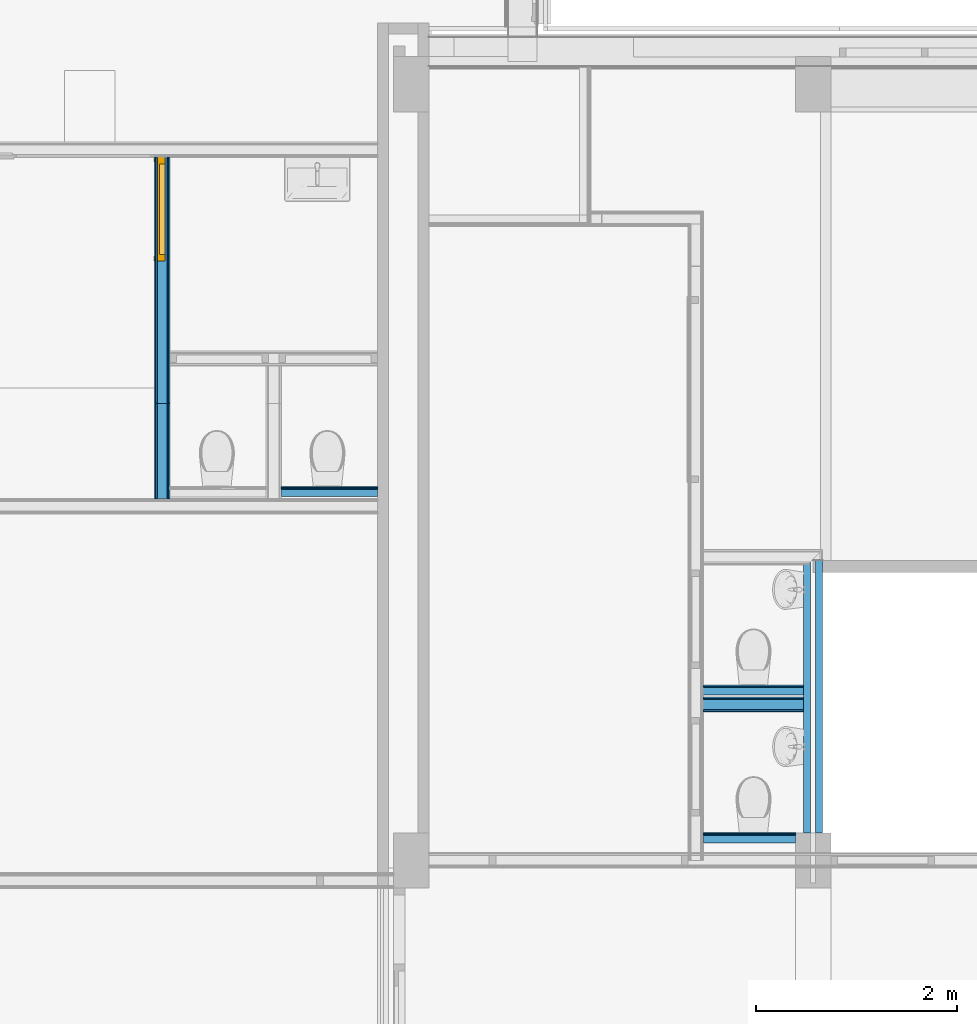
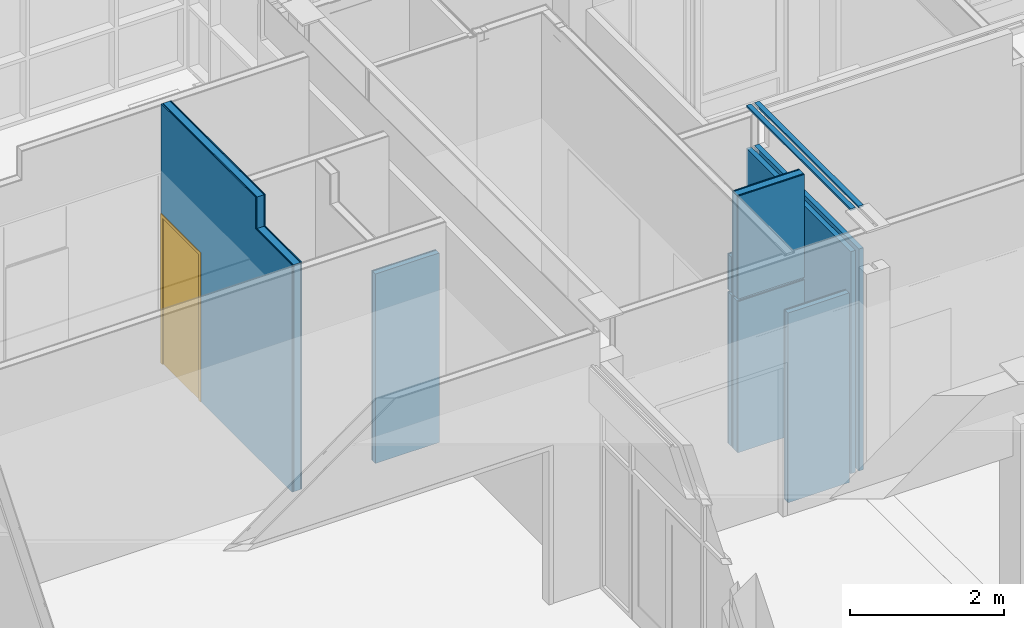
# One storey, part 49 of 109: 21 building element parts, 1 door, 1 opening, 6 elements without a shape of their own.
"""IFC2X3 building model written with IfcOpenShell, lengths in millimetres."""

from ifc_helpers import new_model, entity, si_unit, converted_unit, derived_unit, money_unit, direction, frame, origin_with_axes, place, context, subcontext, project, spatial, faceted_brep, material, type_object, element, fill, aggregate, save


model = new_model("IFC2X3")

# Units and contexts
model_context = context("Model", 3, precision=0.01, world=origin_with_axes(), true_north=direction((0.0, 1.0)))
body_context = subcontext(model_context, "Body", "Model", "MODEL_VIEW")
ifc_project = project(units=[si_unit("LENGTHUNIT", "METRE", prefix="MILLI"), si_unit("AREAUNIT", "SQUARE_METRE"), si_unit("VOLUMEUNIT", "CUBIC_METRE"), converted_unit("PLANEANGLEUNIT", "DEGREE", entity("IfcPlaneAngleMeasure", 0.0174532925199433), si_unit("PLANEANGLEUNIT", "RADIAN"), dimensions=[0, 0, 0, 0, 0, 0, 0]), money_unit("EUR"), converted_unit("TIMEUNIT", "Year", entity("IfcTimeMeasure", 31557600.0), si_unit("TIMEUNIT", "SECOND"), dimensions=[0, 0, 1, 0, 0, 0, 0]), si_unit("MASSUNIT", "GRAM", prefix="KILO"), si_unit("THERMODYNAMICTEMPERATUREUNIT", "DEGREE_CELSIUS"), si_unit("LUMINOUSINTENSITYUNIT", "LUMEN"), si_unit("ENERGYUNIT", "JOULE", prefix="MEGA"), derived_unit("THERMALCONDUCTANCEUNIT", [(si_unit("POWERUNIT", "WATT"), 1), (si_unit("LENGTHUNIT", "METRE"), -1), (si_unit("THERMODYNAMICTEMPERATUREUNIT", "KELVIN"), -1)]), derived_unit("SPECIFICHEATCAPACITYUNIT", [(si_unit("ENERGYUNIT", "JOULE"), 1), (si_unit("MASSUNIT", "GRAM", prefix="KILO"), -1), (si_unit("THERMODYNAMICTEMPERATUREUNIT", "KELVIN"), -1)]), derived_unit("MASSDENSITYUNIT", [(si_unit("MASSUNIT", "GRAM", prefix="KILO"), 1), (si_unit("VOLUMEUNIT", "CUBIC_METRE"), -1)])], contexts=[model_context])

# Site, building, storey
site_placement = place(None, origin_with_axes())
site = spatial("IfcSite", under=ifc_project, at=site_placement, Name="<site naam>", CompositionType="ELEMENT")
building_placement = place(site_placement, origin_with_axes())
building = spatial("IfcBuilding", under=site, at=building_placement, Name="<Naam gebouw>", CompositionType="ELEMENT")
storey_placement = place(building_placement, origin_with_axes())
storey = spatial("IfcBuildingStorey", under=building, at=storey_placement, Name="00 Begane grond", CompositionType="ELEMENT", Elevation=0.0)

# Door
door_style = type_object("IfcDoorStyle", Name="D1 27", ConstructionType="NOTDEFINED", OperationType="SINGLE_SWING_RIGHT", ParameterTakesPrecedence=False, Sizeable=False)
wall_2_placement = place(storey_placement, frame((9596.980742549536, 15599.99998636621, 0.0), z_axis=(0.0, 0.0, 1.0), x_axis=(0.0, 1.0, 0.0)))
opening_placement = place(wall_2_placement, frame((2883.000013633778, 0.0, 0.0), z_axis=(0.0, 0.0, 1.0), x_axis=(1.0, 0.0, 0.0)))
door_placement = place(opening_placement, frame((-449.9999999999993, 0.0, 0.0), z_axis=(0.0, 0.0, 1.0), x_axis=(1.0, 0.0, 0.0)))
door = element("IfcDoor", 1, at=door_placement, inside=storey, type_object=door_style, Name="22_BI-A-01 sp_305", ObjectType="DOOR", OverallHeight=2367.0, OverallWidth=1034.0, context=body_context, shape_type="Brep", body=[
    faceted_brep([(916.9999999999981, 120.000000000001, 0.0), (916.9999999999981, 120.000000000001, 11.99999999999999), (899.9999999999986, 120.000000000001, 11.99999999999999), (899.9999999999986, 120.000000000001, 0.0), (-16.99999999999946, 120.000000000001, 0.0), (-16.99999999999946, 120.000000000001, 11.99999999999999), (0.0, 120.000000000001, 11.99999999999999), (0.0, 45.99999999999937, 11.99999999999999), (899.9999999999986, 45.99999999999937, 11.99999999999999), (899.9999999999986, 45.99999999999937, 0.0), (0.0, 45.99999999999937, 0.0), (0.0, 120.000000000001, 0.0)], [[[0, 1, 2, 3]], [[4, 5, 1, 0]], [[1, 5, 6, 7, 8, 2]], [[3, 2, 8, 9]], [[0, 3, 9, 10, 11, 4]], [[11, 6, 5, 4]], [[10, 7, 6, 11]], [[9, 8, 7, 10]]]),
    faceted_brep([(0.0, 105.0000000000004, 0.0), (0.0, 105.0000000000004, 2300.0), (0.0, 46.00000000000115, 2300.0), (0.0, 45.99999999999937, 0.0), (-16.99999999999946, 105.0000000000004, 2300.0), (-16.99999999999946, 105.0000000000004, 0.0), (-16.99999999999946, 160.0000000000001, 2300.0), (-67.00000000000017, 160.0000000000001, 2300.0), (-67.00000000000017, 46.00000000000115, 2300.0), (-67.00000000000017, 45.99999999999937, 0.0), (-67.00000000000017, 160.0000000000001, 0.0), (-16.99999999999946, 160.0000000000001, 0.0)], [[[0, 1, 2, 3]], [[4, 1, 0, 5]], [[4, 6, 7, 8, 2, 1]], [[3, 2, 8, 9]], [[5, 0, 3, 9, 10, 11]], [[6, 4, 5, 11]], [[6, 11, 10, 7]], [[10, 9, 8, 7]]]),
    faceted_brep([(916.9999999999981, 105.0000000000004, 2300.0), (899.9999999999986, 105.0000000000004, 2300.0), (899.9999999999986, 45.99999999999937, 2300.0), (966.9999999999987, 45.99999999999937, 2300.0), (966.9999999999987, 160.0000000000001, 2300.0), (916.9999999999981, 160.0000000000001, 2300.0), (916.9999999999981, 105.0000000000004, 0.0), (899.9999999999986, 105.0000000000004, 0.0), (899.9999999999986, 45.99999999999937, 0.0), (966.9999999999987, 45.99999999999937, 0.0), (966.9999999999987, 160.0000000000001, 0.0), (916.9999999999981, 160.0000000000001, 0.0)], [[[0, 1, 2, 3, 4, 5]], [[1, 0, 6, 7]], [[1, 7, 8, 2]], [[3, 2, 8, 9]], [[4, 3, 9, 10]], [[11, 5, 4, 10]], [[0, 5, 11, 6]], [[6, 11, 10, 9, 8, 7]]]),
    faceted_brep([(-16.99999999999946, 160.0000000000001, 2317.0), (-16.99999999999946, 160.0000000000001, 2300.0), (-67.00000000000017, 160.0000000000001, 2300.0), (-67.00000000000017, 160.0000000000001, 2367.0), (966.9999999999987, 160.0000000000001, 2367.0), (966.9999999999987, 160.0000000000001, 2300.0), (916.9999999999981, 160.0000000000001, 2300.0), (916.9999999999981, 160.0000000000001, 2317.0), (-16.99999999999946, 105.0000000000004, 2317.0), (-16.99999999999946, 105.0000000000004, 2300.0), (0.0, 105.0000000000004, 2300.0), (0.0, 46.00000000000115, 2300.0), (-67.00000000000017, 46.00000000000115, 2300.0), (-67.00000000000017, 46.00000000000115, 2367.0), (966.9999999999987, 45.99999999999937, 2367.0), (966.9999999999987, 45.99999999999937, 2300.0), (916.9999999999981, 105.0000000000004, 2300.0), (899.9999999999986, 45.99999999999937, 2300.0), (899.9999999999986, 105.0000000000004, 2300.0), (916.9999999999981, 105.0000000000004, 2317.0)], [[[0, 1, 2, 3, 4, 5, 6, 7]], [[1, 0, 8, 9]], [[9, 10, 11, 12, 2, 1]], [[2, 12, 13, 3]], [[3, 13, 14, 4]], [[4, 14, 15, 5]], [[16, 6, 5, 15, 17, 18]], [[7, 6, 16, 19]], [[0, 7, 19, 8]], [[16, 18, 10, 9, 8, 19]], [[10, 18, 17, 11]], [[17, 15, 14, 13, 12, 11]]]),
    faceted_brep([(916.9999999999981, 144.9999999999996, 0.0), (916.9999999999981, 105.0000000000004, 0.0), (-16.99999999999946, 105.0000000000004, 0.0), (-16.99999999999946, 144.9999999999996, 0.0), (916.9999999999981, 144.9999999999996, 2317.0), (916.9999999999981, 105.0000000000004, 2317.0), (-16.99999999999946, 105.0000000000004, 2317.0), (-16.99999999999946, 144.9999999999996, 2317.0)], [[[0, 1, 2, 3]], [[4, 5, 1, 0]], [[1, 5, 6, 2]], [[3, 2, 6, 7]], [[0, 3, 7, 4]], [[7, 6, 5, 4]]]),
])

# Wall, building element parts
wall_type_1 = type_object("IfcWallType", Name="metalstud-lucht-metalstud 190 190", PredefinedType="NOTDEFINED")
wall_1_placement = place(storey_placement, frame((16000.00000000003, 14985.53550734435, 50.0), z_axis=(0.0, 0.0, 1.0), x_axis=(0.0, -1.0, 0.0)))
wall_1 = element("IfcWall", 2, at=wall_1_placement, inside=storey, type_object=wall_type_1, Name="22_Binnenwand_metalstud-lucht-metalstud")
ifc_material_1 = material(Name="metal_stud")
building_element_part_1_placement = place(wall_1_placement, origin_with_axes())
building_element_part_1 = element("IfcBuildingElementPart", 3, at=building_element_part_1_placement, material=ifc_material_1, Name="metal_stud", context=body_context, shape_type="Brep", body=[
    faceted_brep([(2710.535507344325, -94.99999999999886, 3520.0), (2710.535507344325, -25.00000000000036, 3520.0), (0.0, -25.00000000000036, 3520.0), (0.0, -94.99999999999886, 3520.0), (2710.535507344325, -25.00000000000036, 0.0), (2710.535507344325, -94.99999999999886, 0.0), (0.0, -25.00000000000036, 0.0), (0.0, -94.99999999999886, 0.0)], [[[0, 1, 2, 3]], [[4, 1, 0, 5]], [[1, 4, 6, 2]], [[7, 3, 2, 6]], [[5, 0, 3, 7]], [[4, 5, 7, 6]]]),
    faceted_brep([(2710.535507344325, -94.99999999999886, 4200.0), (2710.535507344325, -25.00000000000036, 4200.0), (0.0, -25.00000000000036, 4200.0), (0.0, -94.99999999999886, 4200.0), (2710.535507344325, -25.00000000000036, 4170.0), (2710.535507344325, -94.99999999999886, 4170.0), (0.0, -25.00000000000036, 4170.0), (0.0, -94.99999999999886, 4170.0)], [[[0, 1, 2, 3]], [[4, 1, 0, 5]], [[1, 4, 6, 2]], [[3, 2, 6, 7]], [[5, 0, 3, 7]], [[4, 5, 7, 6]]]),
])
building_element_part_2_placement = place(wall_1_placement, origin_with_axes())
building_element_part_2 = element("IfcBuildingElementPart", 4, at=building_element_part_2_placement, material=ifc_material_1, Name="metal_stud", context=body_context, shape_type="Brep", body=[
    faceted_brep([(2710.535507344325, 24.99999999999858, 3520.0), (2710.535507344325, 94.99999999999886, 3520.0), (0.0, 94.99999999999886, 3520.0), (0.0, 24.99999999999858, 3520.0), (2710.535507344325, 94.99999999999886, 0.0), (2710.535507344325, 24.99999999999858, 0.0), (0.0, 94.99999999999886, 0.0), (0.0, 24.99999999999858, 0.0)], [[[0, 1, 2, 3]], [[4, 1, 0, 5]], [[1, 4, 6, 2]], [[7, 3, 2, 6]], [[5, 0, 3, 7]], [[4, 5, 7, 6]]]),
    faceted_brep([(2710.535507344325, 24.99999999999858, 4200.0), (2710.535507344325, 94.99999999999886, 4200.0), (0.0, 94.99999999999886, 4200.0), (0.0, 24.99999999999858, 4200.0), (2710.535507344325, 94.99999999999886, 4170.0), (2710.535507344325, 24.99999999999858, 4170.0), (0.0, 94.99999999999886, 4170.0), (0.0, 24.99999999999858, 4170.0)], [[[0, 1, 2, 3]], [[4, 1, 0, 5]], [[1, 4, 6, 2]], [[3, 2, 6, 7]], [[5, 0, 3, 7]], [[4, 5, 7, 6]]]),
])
aggregate(wall_1, [building_element_part_1, building_element_part_2])

# Wall, opening
wall_type_2 = type_object("IfcWallType", Name="MS-01 GF 150 ECO DGS/2.100.2.A 150", PredefinedType="NOTDEFINED")
wall_2 = element("IfcWall", 5, at=wall_2_placement, inside=storey, type_object=wall_type_2, Name="22_Binnenwand_MS-01")
opening = element("IfcOpeningElement", 6, at=opening_placement, cuts=wall_2, Name="22_BI-A-01 sp_305", context=body_context, shape_type="Brep", body=[
    faceted_brep([(-516.9999999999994, -0.9999999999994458, 2367.0), (-516.9999999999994, -0.9999999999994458, 0.0), (516.9999999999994, -0.9999999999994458, 0.0), (516.9999999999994, -0.9999999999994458, 2367.0), (-516.9999999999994, 150.9999999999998, 2367.0), (-516.9999999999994, 150.9999999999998, 0.0), (516.9999999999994, 150.9999999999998, 0.0), (516.9999999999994, 150.9999999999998, 2367.0)], [[[0, 1, 2, 3]], [[4, 5, 1, 0]], [[5, 6, 2, 1]], [[6, 7, 3, 2]], [[7, 4, 0, 3]], [[6, 5, 4, 7]]]),
])

fill(opening, door)

# Building element part
ifc_material_2 = material(Name="gipsplaat")
building_element_part_3_placement = place(wall_2_placement, origin_with_axes())
building_element_part_3 = element("IfcBuildingElementPart", 7, at=building_element_part_3_placement, material=ifc_material_2, Name="gipsplaat", context=body_context, shape_type="Brep", body=[
    faceted_brep([(950.0000136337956, 150.0000000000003, 4100.000003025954), (950.0000136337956, 137.5000000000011, 4100.000003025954), (3400.000013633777, 137.5000000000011, 4100.000002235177), (3400.000013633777, 150.0000000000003, 4100.000002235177), (950.0000136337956, 137.4999999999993, 3600.0), (950.0000136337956, 150.0000000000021, 3600.0), (0.0, 137.5000000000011, 3600.0), (0.0, 137.4999999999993, 0.0), (3400.000013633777, 137.4999999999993, 0.0), (3400.000013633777, 137.4999999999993, 4070.0), (3400.000013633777, 150.0000000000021, 4070.0), (3400.000013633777, 150.0000000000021, 0.0), (0.0, 150.0000000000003, 0.0), (0.0, 150.0000000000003, 3600.0)], [[[0, 1, 2, 3]], [[4, 1, 0, 5]], [[4, 6, 7, 8, 9, 2, 1]], [[2, 9, 10, 3]], [[5, 0, 3, 10, 11, 12, 13]], [[6, 4, 5, 13]], [[6, 13, 12, 7]], [[12, 11, 8, 7]], [[11, 10, 9, 8]]]),
])

building_element_part_4_placement = place(wall_2_placement, origin_with_axes())
building_element_part_4 = element("IfcBuildingElementPart", 8, at=building_element_part_4_placement, material=ifc_material_2, Name="gipsplaat", context=body_context, shape_type="Brep", body=[
    faceted_brep([(950.0000136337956, 137.5000000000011, 4100.000003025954), (950.0000136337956, 125.0, 4100.000003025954), (3400.000013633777, 125.0, 4100.000002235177), (3400.000013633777, 137.5000000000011, 4100.000002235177), (950.0000136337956, 125.0, 3600.0), (950.0000136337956, 137.5000000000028, 3600.0), (0.0, 125.0, 3600.0), (0.0, 125.0, 0.0), (3400.000013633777, 125.0, 0.0), (3400.000013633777, 125.0, 4070.0), (3400.000013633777, 137.5000000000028, 4070.0), (3400.000013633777, 137.4999999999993, 0.0), (0.0, 137.4999999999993, 0.0), (0.0, 137.5000000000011, 3600.0)], [[[0, 1, 2, 3]], [[4, 1, 0, 5]], [[4, 6, 7, 8, 9, 2, 1]], [[2, 9, 10, 3]], [[5, 0, 3, 10, 11, 12, 13]], [[6, 4, 5, 13]], [[6, 13, 12, 7]], [[12, 11, 8, 7]], [[11, 10, 9, 8]]]),
])

ifc_material_3 = material(Name="isolatie_steenwol LSW")
building_element_part_5_placement = place(wall_2_placement, origin_with_axes())
building_element_part_5 = element("IfcBuildingElementPart", 9, at=building_element_part_5_placement, material=ifc_material_3, Name="isolatie_steenwol LSW", context=body_context, shape_type="Brep", body=[
    faceted_brep([(950.0000136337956, 125.0, 4100.000003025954), (950.0000136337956, 25.00000000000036, 4100.000003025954), (3400.000013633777, 25.00000000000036, 4100.000002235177), (3400.000013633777, 125.0, 4100.000002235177), (950.0000136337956, 25.00000000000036, 3600.0), (950.0000136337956, 125.0, 3600.0), (0.0, 25.00000000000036, 3600.0), (0.0, 25.00000000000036, 0.0), (3400.000013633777, 25.00000000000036, 0.0), (3400.000013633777, 25.00000000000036, 4070.0), (3400.000013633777, 125.0, 4070.0), (3400.000013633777, 125.0, 0.0), (0.0, 125.0, 0.0), (0.0, 125.0, 3600.0)], [[[0, 1, 2, 3]], [[4, 1, 0, 5]], [[4, 6, 7, 8, 9, 2, 1]], [[2, 9, 10, 3]], [[5, 0, 3, 10, 11, 12, 13]], [[6, 4, 5, 13]], [[6, 13, 12, 7]], [[12, 11, 8, 7]], [[11, 10, 9, 8]]]),
])

building_element_part_6_placement = place(wall_2_placement, origin_with_axes())
building_element_part_6 = element("IfcBuildingElementPart", 10, at=building_element_part_6_placement, material=ifc_material_2, Name="gipsplaat", context=body_context, shape_type="Brep", body=[
    faceted_brep([(950.0000136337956, 12.50000000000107, 4100.000003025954), (950.0000136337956, 0.0, 4100.000003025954), (3400.000013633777, 0.0, 4100.000002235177), (3400.000013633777, 12.50000000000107, 4100.000002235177), (950.0000136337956, 0.0, 3600.0), (950.0000136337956, 12.50000000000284, 3600.0), (0.0, 0.0, 3600.0), (0.0, 0.0, 0.0), (3400.000013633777, 0.0, 0.0), (3400.000013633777, 0.0, 4070.0), (3400.000013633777, 12.50000000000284, 4070.0), (3400.000013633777, 12.49999999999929, 0.0), (0.0, 12.49999999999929, 0.0), (0.0, 12.50000000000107, 3600.0)], [[[0, 1, 2, 3]], [[4, 1, 0, 5]], [[4, 6, 7, 8, 9, 2, 1]], [[2, 9, 10, 3]], [[5, 0, 3, 10, 11, 12, 13]], [[6, 4, 5, 13]], [[6, 13, 12, 7]], [[12, 11, 8, 7]], [[11, 10, 9, 8]]]),
])

building_element_part_7_placement = place(wall_2_placement, origin_with_axes())
building_element_part_7 = element("IfcBuildingElementPart", 11, at=building_element_part_7_placement, material=ifc_material_2, Name="gipsplaat", context=body_context, shape_type="Brep", body=[
    faceted_brep([(950.0000136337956, 25.00000000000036, 4100.000003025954), (950.0000136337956, 12.50000000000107, 4100.000003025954), (3400.000013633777, 12.50000000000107, 4100.000002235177), (3400.000013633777, 25.00000000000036, 4100.000002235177), (950.0000136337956, 12.49999999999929, 3600.0), (950.0000136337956, 25.00000000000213, 3600.0), (0.0, 12.50000000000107, 3600.0), (0.0, 12.49999999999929, 0.0), (3400.000013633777, 12.49999999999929, 0.0), (3400.000013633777, 12.49999999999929, 4070.0), (3400.000013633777, 25.00000000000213, 4070.0), (3400.000013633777, 25.00000000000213, 0.0), (0.0, 25.00000000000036, 0.0), (0.0, 25.00000000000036, 3600.0)], [[[0, 1, 2, 3]], [[4, 1, 0, 5]], [[4, 6, 7, 8, 9, 2, 1]], [[2, 9, 10, 3]], [[5, 0, 3, 10, 11, 12, 13]], [[6, 4, 5, 13]], [[6, 13, 12, 7]], [[12, 11, 8, 7]], [[11, 10, 9, 8]]]),
])

aggregate(wall_2, [building_element_part_3, building_element_part_4, building_element_part_5, building_element_part_6, building_element_part_7])

# Wall, building element parts
wall_3_placement = place(storey_placement, frame((15904.41516273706, 13550.39987618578, 0.0), z_axis=(0.0, 0.0, 1.0), x_axis=(-1.0, 0.0, 0.0)))
wall_3 = element("IfcWall", 12, at=wall_3_placement, inside=storey, type_object=wall_type_2, Name="22_Binnenwand_MS-01")
building_element_part_8_placement = place(wall_3_placement, origin_with_axes())
building_element_part_8 = element("IfcBuildingElementPart", 13, at=building_element_part_8_placement, material=ifc_material_2, Name="gipsplaat", context=body_context, shape_type="Brep", body=[
    faceted_brep([(999.4601564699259, 74.99999999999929, 3.000000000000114), (0.008473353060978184, 75.00000358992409, 3.000000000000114), (0.0, 75.00000000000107, 2400.0), (999.4601564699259, 74.99999999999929, 2400.0), (999.4601564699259, 62.5, 3.000000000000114), (0.01376925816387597, 62.5, 3.000000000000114), (0.008473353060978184, 75.00000358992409, 0.0), (0.0, 62.5, 0.0), (0.0, 62.5, 2400.0), (999.4601564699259, 62.5, 2400.0), (0.01376925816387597, 62.5, 0.0)], [[[0, 1, 2, 3]], [[1, 0, 4, 5]], [[1, 6, 7, 8, 2]], [[2, 8, 9, 3]], [[4, 0, 3, 9]], [[5, 4, 9, 8, 7, 10]], [[6, 1, 5, 10]], [[6, 10, 7]]]),
    faceted_brep([(0.0, 75.00000000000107, 2440.0), (0.0, 62.5, 2440.0), (0.0, 62.5, 4070.0), (0.0, 75.00000000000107, 4070.0), (999.4601564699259, 62.5, 2440.0), (999.4601564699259, 74.99999999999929, 2440.0), (999.4601564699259, 62.5, 4070.0), (999.4601564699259, 74.99999999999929, 4070.0)], [[[0, 1, 2, 3]], [[4, 1, 0, 5]], [[1, 4, 6, 2]], [[6, 7, 3, 2]], [[5, 0, 3, 7]], [[4, 5, 7, 6]]]),
])
building_element_part_9_placement = place(wall_3_placement, origin_with_axes())
building_element_part_9 = element("IfcBuildingElementPart", 14, at=building_element_part_9_placement, material=ifc_material_2, Name="gipsplaat", context=body_context, shape_type="Brep", body=[
    faceted_brep([(0.01906516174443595, 50.00000000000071, 3.000000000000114), (999.4601564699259, 50.00000000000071, 3.000000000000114), (999.4601564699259, 50.00000000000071, 2400.0), (0.0, 50.00000000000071, 2400.0), (0.0, 50.00000000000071, 0.0), (0.01906516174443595, 50.00000000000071, 0.0), (0.01376925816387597, 62.5, 3.000000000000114), (999.4601564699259, 62.5, 3.000000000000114), (999.4601564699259, 62.5, 2400.0), (0.0, 62.5, 2400.0), (0.0, 62.5, 0.0), (0.01376925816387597, 62.5, 0.0)], [[[0, 1, 2, 3, 4, 5]], [[1, 0, 6, 7]], [[1, 7, 8, 2]], [[9, 3, 2, 8]], [[3, 9, 10, 4]], [[11, 5, 4, 10]], [[0, 5, 11, 6]], [[6, 11, 10, 9, 8, 7]]]),
    faceted_brep([(0.0, 62.5, 2440.0), (0.0, 50.00000000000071, 2440.0), (0.0, 50.00000000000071, 4070.0), (0.0, 62.5, 4070.0), (999.4601564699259, 50.00000000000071, 2440.0), (999.4601564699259, 62.5, 2440.0), (999.4601564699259, 50.00000000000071, 4070.0), (999.4601564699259, 62.5, 4070.0)], [[[0, 1, 2, 3]], [[4, 1, 0, 5]], [[1, 4, 6, 2]], [[6, 7, 3, 2]], [[5, 0, 3, 7]], [[4, 5, 7, 6]]]),
])
building_element_part_10_placement = place(wall_3_placement, origin_with_axes())
building_element_part_10 = element("IfcBuildingElementPart", 15, at=building_element_part_10_placement, material=ifc_material_3, Name="isolatie_steenwol LSW", context=body_context, shape_type="Brep", body=[
    faceted_brep([(0.01906516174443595, 50.00000000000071, 3.000000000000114), (0.01906516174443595, 50.00000000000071, 0.0), (0.0, 50.00000000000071, 0.0), (0.0, 50.00000000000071, 2400.0), (999.4601564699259, 50.00000000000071, 2400.0), (999.4601564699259, 50.00000000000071, 3.000000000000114), (0.06143239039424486, -50.00000000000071, 3.000000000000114), (0.06143239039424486, -50.00000000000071, 0.0), (0.0, -50.00000000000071, 0.0), (0.0, -49.99999999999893, 2400.0), (999.4601564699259, -50.00000000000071, 2400.0), (999.4601564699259, -50.00000000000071, 3.000000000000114)], [[[0, 1, 2, 3, 4, 5]], [[1, 0, 6, 7]], [[1, 7, 8, 2]], [[9, 3, 2, 8]], [[3, 9, 10, 4]], [[11, 5, 4, 10]], [[0, 5, 11, 6]], [[6, 11, 10, 9, 8, 7]]]),
    faceted_brep([(0.0, 50.00000000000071, 2440.0), (0.0, -49.99999999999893, 2440.0), (0.0, -49.99999999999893, 4070.0), (0.0, 50.00000000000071, 4070.0), (999.4601564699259, -50.00000000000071, 2440.0), (999.4601564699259, 50.00000000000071, 2440.0), (999.4601564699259, -50.00000000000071, 4070.0), (999.4601564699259, 50.00000000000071, 4070.0)], [[[0, 1, 2, 3]], [[4, 1, 0, 5]], [[1, 4, 6, 2]], [[6, 7, 3, 2]], [[5, 0, 3, 7]], [[4, 5, 7, 6]]]),
])
building_element_part_11_placement = place(wall_3_placement, origin_with_axes())
building_element_part_11 = element("IfcBuildingElementPart", 16, at=building_element_part_11_placement, material=ifc_material_2, Name="gipsplaat", context=body_context, shape_type="Brep", body=[
    faceted_brep([(0.06672829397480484, -62.5, 3.000000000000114), (999.4601564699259, -62.5, 3.000000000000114), (999.4601564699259, -62.5, 2400.0), (0.0, -62.5, 2400.0), (0.0, -62.5, 0.0), (0.06672829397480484, -62.5, 0.0), (0.06143239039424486, -50.00000000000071, 3.000000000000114), (999.4601564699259, -50.00000000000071, 3.000000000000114), (999.4601564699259, -50.00000000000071, 2400.0), (0.0, -49.99999999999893, 2400.0), (0.0, -50.00000000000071, 0.0), (0.06143239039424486, -50.00000000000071, 0.0)], [[[0, 1, 2, 3, 4, 5]], [[1, 0, 6, 7]], [[1, 7, 8, 2]], [[9, 3, 2, 8]], [[3, 9, 10, 4]], [[11, 5, 4, 10]], [[0, 5, 11, 6]], [[6, 11, 10, 9, 8, 7]]]),
    faceted_brep([(0.0, -49.99999999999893, 2440.0), (0.0, -62.5, 2440.0), (0.0, -62.5, 4070.0), (0.0, -49.99999999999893, 4070.0), (999.4601564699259, -62.5, 2440.0), (999.4601564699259, -50.00000000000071, 2440.0), (999.4601564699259, -62.5, 4070.0), (999.4601564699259, -50.00000000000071, 4070.0)], [[[0, 1, 2, 3]], [[4, 1, 0, 5]], [[1, 4, 6, 2]], [[6, 7, 3, 2]], [[5, 0, 3, 7]], [[4, 5, 7, 6]]]),
])
building_element_part_12_placement = place(wall_3_placement, origin_with_axes())
building_element_part_12 = element("IfcBuildingElementPart", 17, at=building_element_part_12_placement, material=ifc_material_2, Name="gipsplaat", context=body_context, shape_type="Brep", body=[
    faceted_brep([(0.07202419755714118, -74.99999999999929, 3.000000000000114), (999.4601564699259, -74.99999999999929, 3.000000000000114), (999.4601564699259, -74.99999999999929, 2400.0), (0.0, -74.99999999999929, 2400.0), (0.0, -74.99999999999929, 0.0), (0.07202419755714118, -74.99999999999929, 0.0), (0.06672829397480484, -62.5, 3.000000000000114), (999.4601564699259, -62.5, 3.000000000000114), (999.4601564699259, -62.5, 2400.0), (0.0, -62.5, 2400.0), (0.0, -62.5, 0.0), (0.06672829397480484, -62.5, 0.0)], [[[0, 1, 2, 3, 4, 5]], [[1, 0, 6, 7]], [[1, 7, 8, 2]], [[9, 3, 2, 8]], [[3, 9, 10, 4]], [[11, 5, 4, 10]], [[0, 5, 11, 6]], [[6, 11, 10, 9, 8, 7]]]),
    faceted_brep([(0.0, -62.5, 2440.0), (0.0, -74.99999999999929, 2440.0), (0.0, -74.99999999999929, 4070.0), (0.0, -62.5, 4070.0), (999.4601564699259, -74.99999999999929, 2440.0), (999.4601564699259, -62.5, 2440.0), (999.4601564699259, -74.99999999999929, 4070.0), (999.4601564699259, -62.5, 4070.0)], [[[0, 1, 2, 3]], [[4, 1, 0, 5]], [[1, 4, 6, 2]], [[6, 7, 3, 2]], [[5, 0, 3, 7]], [[4, 5, 7, 6]]]),
])
aggregate(wall_3, [building_element_part_8, building_element_part_9, building_element_part_10, building_element_part_11, building_element_part_12])

wall_type_3 = type_object("IfcWallType", Name="MS-03 GF 100 HTT DGS V/100.2 100", PredefinedType="NOTDEFINED")
wall_4_placement = place(storey_placement, frame((14906.04396870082, 12275.00000000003, 0.0), z_axis=(0.0, 0.0, 1.0), x_axis=(1.0, 0.0, 0.0)))
wall_4 = element("IfcWall", 18, at=wall_4_placement, inside=storey, type_object=wall_type_3, Name="22_Binnenwand_MS-03")
building_element_part_13_placement = place(wall_4_placement, origin_with_axes())
building_element_part_13 = element("IfcBuildingElementPart", 19, at=building_element_part_13_placement, material=ifc_material_2, Name="gipsplaat", context=body_context, shape_type="Brep", body=[
    faceted_brep([(918.9560312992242, -25.00000000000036, 2.999999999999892), (918.9560312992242, -12.49999999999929, 3.000000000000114), (918.9560312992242, -12.49999999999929, 3008.0), (918.9560312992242, -25.00000000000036, 3008.0), (0.0, -12.49999999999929, 3.000000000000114), (0.0, -25.00000000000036, 2.999999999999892), (0.0, -12.49999999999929, 3008.0), (0.0, -25.00000000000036, 3008.0)], [[[0, 1, 2, 3]], [[4, 1, 0, 5]], [[1, 4, 6, 2]], [[7, 3, 2, 6]], [[5, 0, 3, 7]], [[4, 5, 7, 6]]]),
])
building_element_part_14_placement = place(wall_4_placement, origin_with_axes())
building_element_part_14 = element("IfcBuildingElementPart", 20, at=building_element_part_14_placement, material=ifc_material_2, Name="gipsplaat", context=body_context, shape_type="Brep", body=[
    faceted_brep([(918.9560312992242, -12.49999999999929, 2.999999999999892), (918.9560312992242, 0.0, 3.000000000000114), (918.9560312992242, 0.0, 3008.0), (918.9560312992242, -12.49999999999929, 3008.0), (0.0, 0.0, 3.000000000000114), (0.0, -12.49999999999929, 2.999999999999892), (0.0, 0.0, 3008.0), (0.0, -12.49999999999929, 3008.0)], [[[0, 1, 2, 3]], [[4, 1, 0, 5]], [[1, 4, 6, 2]], [[7, 3, 2, 6]], [[5, 0, 3, 7]], [[4, 5, 7, 6]]]),
])
building_element_part_15_placement = place(wall_4_placement, origin_with_axes())
building_element_part_15 = element("IfcBuildingElementPart", 21, at=building_element_part_15_placement, material=ifc_material_3, Name="isolatie_steenwol LSW", context=body_context, shape_type="Brep", body=[
    faceted_brep([(918.9560312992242, -80.45709832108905, 0.0), (918.9560312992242, -80.45709832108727, 2.999999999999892), (918.9560312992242, -25.00000000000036, 3.000000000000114), (918.9560312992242, -25.00000000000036, 3008.0), (918.9560312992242, -99.99999999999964, 3008.0), (918.9560312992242, -99.99999999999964, 0.0), (0.0, -80.84643452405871, 0.0), (0.0, -80.84643452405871, 2.999999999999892), (0.0, -25.00000000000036, 3.000000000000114), (0.0, -25.00000000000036, 3008.0), (0.0, -99.99999999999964, 3008.0), (0.0, -99.99999999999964, 0.0)], [[[0, 1, 2, 3, 4, 5]], [[1, 0, 6, 7]], [[8, 2, 1, 7]], [[2, 8, 9, 3]], [[10, 4, 3, 9]], [[11, 5, 4, 10]], [[6, 0, 5, 11]], [[7, 6, 11, 10, 9, 8]]]),
])
aggregate(wall_4, [building_element_part_13, building_element_part_14, building_element_part_15])

wall_5_placement = place(storey_placement, frame((14905.42716911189, 13744.97665015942, 0.0), z_axis=(0.0, 0.0, 1.0), x_axis=(0.999999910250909, 0.0004236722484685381, 0.0)))
wall_5 = element("IfcWall", 22, at=wall_5_placement, inside=storey, type_object=wall_type_3, Name="22_Binnenwand_MS-03")
building_element_part_16_placement = place(wall_5_placement, origin_with_axes())
building_element_part_16 = element("IfcBuildingElementPart", 23, at=building_element_part_16_placement, material=ifc_material_2, Name="gipsplaat", context=body_context, shape_type="Brep", body=[
    faceted_brep([(998.8652184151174, 0.0, 2.999999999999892), (0.0, 0.0, 3.000000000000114), (0.0, 0.0, 2400.0), (998.9054671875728, 0.0, 2400.0), (998.9054671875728, 0.0, 0.0), (998.8652184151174, 0.0, 0.0), (998.8652184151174, -12.49999999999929, 2.999999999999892), (0.0, -12.49999999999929, 2.999999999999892), (0.0, -12.49999999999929, 2400.0), (998.9054671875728, -12.49999999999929, 2400.0), (998.9054671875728, -12.49999999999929, 0.0), (998.8652184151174, -12.49999999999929, 0.0)], [[[0, 1, 2, 3, 4, 5]], [[1, 0, 6, 7]], [[1, 7, 8, 2]], [[9, 3, 2, 8]], [[3, 9, 10, 4]], [[11, 5, 4, 10]], [[0, 5, 11, 6]], [[6, 11, 10, 9, 8, 7]]]),
    faceted_brep([(998.9054671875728, -12.49999999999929, 2440.0), (998.9054671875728, 0.0, 2440.0), (998.9054671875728, 0.0, 3008.0), (998.9054671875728, -12.49999999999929, 3008.0), (0.0, 0.0, 2440.0), (0.0, -12.49999999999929, 2440.0), (0.0, 0.0, 3008.0), (0.0, -12.49999999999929, 3008.0)], [[[0, 1, 2, 3]], [[4, 1, 0, 5]], [[1, 4, 6, 2]], [[7, 3, 2, 6]], [[5, 0, 3, 7]], [[4, 5, 7, 6]]]),
])
building_element_part_17_placement = place(wall_5_placement, origin_with_axes())
building_element_part_17 = element("IfcBuildingElementPart", 24, at=building_element_part_17_placement, material=ifc_material_2, Name="gipsplaat", context=body_context, shape_type="Brep", body=[
    faceted_brep([(998.8652184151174, -12.49999999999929, 2.999999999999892), (0.0, -12.49999999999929, 3.000000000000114), (0.0, -12.49999999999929, 2400.0), (998.9054671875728, -12.49999999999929, 2400.0), (998.9054671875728, -12.49999999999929, 0.0), (998.8652184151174, -12.49999999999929, 0.0), (998.8652184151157, -25.00000000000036, 2.999999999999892), (0.0, -25.00000000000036, 2.999999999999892), (0.0, -25.00000000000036, 2400.0), (998.9054671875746, -24.99999999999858, 2400.0), (998.9054671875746, -25.00000000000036, 0.0), (998.8652184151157, -25.00000000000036, 0.0)], [[[0, 1, 2, 3, 4, 5]], [[1, 0, 6, 7]], [[1, 7, 8, 2]], [[9, 3, 2, 8]], [[3, 9, 10, 4]], [[11, 5, 4, 10]], [[0, 5, 11, 6]], [[6, 11, 10, 9, 8, 7]]]),
    faceted_brep([(998.9054671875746, -24.99999999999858, 2440.0), (998.9054671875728, -12.49999999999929, 2440.0), (998.9054671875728, -12.49999999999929, 3008.0), (998.9054671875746, -24.99999999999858, 3008.0), (0.0, -12.49999999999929, 2440.0), (0.0, -25.00000000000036, 2440.0), (0.0, -12.49999999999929, 3008.0), (0.0, -25.00000000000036, 3008.0)], [[[0, 1, 2, 3]], [[4, 1, 0, 5]], [[1, 4, 6, 2]], [[7, 3, 2, 6]], [[5, 0, 3, 7]], [[4, 5, 7, 6]]]),
])
building_element_part_18_placement = place(wall_5_placement, origin_with_axes())
building_element_part_18 = element("IfcBuildingElementPart", 25, at=building_element_part_18_placement, material=ifc_material_3, Name="isolatie_steenwol LSW", context=body_context, shape_type="Brep", body=[
    faceted_brep([(998.8652184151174, -99.99999999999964, 2.999999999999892), (998.8652184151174, -99.99999999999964, 0.0), (998.9054671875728, -99.99999999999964, 0.0), (998.9054671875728, -99.99999999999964, 2400.0), (0.0, -99.99999999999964, 2400.0), (0.0, -100.0000000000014, 2.999999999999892), (998.8652184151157, -24.99999999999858, 2.999999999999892), (998.8652184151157, -25.00000000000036, 0.0), (998.9054671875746, -25.00000000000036, 0.0), (998.9054671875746, -24.99999999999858, 2400.0), (0.0, -25.00000000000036, 2400.0), (0.0, -25.00000000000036, 3.000000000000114)], [[[0, 1, 2, 3, 4, 5]], [[1, 0, 6, 7]], [[1, 7, 8, 2]], [[9, 3, 2, 8]], [[4, 3, 9, 10]], [[11, 5, 4, 10]], [[0, 5, 11, 6]], [[6, 11, 10, 9, 8, 7]]]),
    faceted_brep([(0.0, -99.99999999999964, 2440.0), (998.9054671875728, -99.99999999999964, 2440.0), (998.9054671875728, -99.99999999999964, 3008.0), (0.0, -99.99999999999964, 3008.0), (998.9054671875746, -24.99999999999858, 2440.0), (0.0, -25.00000000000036, 2440.0), (998.9054671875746, -24.99999999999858, 3008.0), (0.0, -25.00000000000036, 3008.0)], [[[0, 1, 2, 3]], [[4, 1, 0, 5]], [[1, 4, 6, 2]], [[3, 2, 6, 7]], [[5, 0, 3, 7]], [[4, 5, 7, 6]]]),
])
aggregate(wall_5, [building_element_part_16, building_element_part_17, building_element_part_18])

wall_6_placement = place(storey_placement, frame((10705.98072423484, 15719.99998636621, 0.0), z_axis=(0.0, 0.0, 1.0), x_axis=(0.9999997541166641, 0.0007012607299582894, 0.0)))
wall_6 = element("IfcWall", 26, at=wall_6_placement, inside=storey, type_object=wall_type_3, Name="22_Binnenwand_MS-03")
building_element_part_19_placement = place(wall_6_placement, origin_with_axes())
building_element_part_19 = element("IfcBuildingElementPart", 27, at=building_element_part_19_placement, material=ifc_material_2, Name="gipsplaat", context=body_context, shape_type="Brep", body=[
    faceted_brep([(959.0107458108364, -12.49999999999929, 2.999999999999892), (0.0, -12.49999999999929, 3.000000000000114), (0.0, -12.49999999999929, 3008.0), (959.2507612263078, -12.49999999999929, 3008.0), (959.2507612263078, -12.49999999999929, 0.0), (959.0107458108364, -12.49999999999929, 0.0), (959.0019800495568, -24.9999999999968, 2.999999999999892), (0.0, -24.99999999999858, 2.999999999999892), (0.0, -24.99999999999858, 3008.0), (959.2507612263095, -24.9999999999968, 3008.0), (959.2507612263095, -24.9999999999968, 0.0), (959.0019800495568, -24.9999999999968, 0.0)], [[[0, 1, 2, 3, 4, 5]], [[1, 0, 6, 7]], [[1, 7, 8, 2]], [[8, 9, 3, 2]], [[3, 9, 10, 4]], [[11, 5, 4, 10]], [[0, 5, 11, 6]], [[6, 11, 10, 9, 8, 7]]]),
])
building_element_part_20_placement = place(wall_6_placement, origin_with_axes())
building_element_part_20 = element("IfcBuildingElementPart", 28, at=building_element_part_20_placement, material=ifc_material_2, Name="gipsplaat", context=body_context, shape_type="Brep", body=[
    faceted_brep([(0.0, 0.0, 2400.0), (959.0195115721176, 0.0, 2400.0), (959.0195115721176, 0.0, 2440.0), (0.0, 0.0, 2440.0), (0.0, 0.0, 3008.0), (959.2507612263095, 0.0, 3008.0), (959.2507612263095, 0.0, 0.0), (959.0195115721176, 0.0, 0.0), (959.0195115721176, 0.0, 2.999999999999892), (0.0, 0.0, 3.000000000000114), (0.0, -0.7776985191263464, 2400.0), (959.0184945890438, -1.450220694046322, 2400.0), (959.0184945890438, -1.450220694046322, 2440.0), (0.0, -0.7776985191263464, 2440.0), (0.0, -12.49999999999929, 2.999999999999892), (0.0, -12.49999999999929, 3008.0), (959.2507612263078, -12.49999999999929, 3008.0), (959.2507612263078, -12.49999999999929, 0.0), (959.0107458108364, -12.49999999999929, 0.0), (959.0107458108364, -12.49999999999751, 2.999999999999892)], [[[0, 1, 2, 3, 4, 5, 6, 7, 8, 9]], [[1, 0, 10, 11]], [[2, 1, 11, 12]], [[3, 2, 12, 13]], [[10, 0, 9, 14, 15, 4, 3, 13]], [[15, 16, 5, 4]], [[5, 16, 17, 6]], [[18, 7, 6, 17]], [[8, 7, 18, 19]], [[9, 8, 19, 14]], [[10, 13, 12, 11]], [[19, 18, 17, 16, 15, 14]]]),
])
building_element_part_21_placement = place(wall_6_placement, origin_with_axes())
building_element_part_21 = element("IfcBuildingElementPart", 29, at=building_element_part_21_placement, material=ifc_material_3, Name="isolatie_steenwol LSW", context=body_context, shape_type="Brep", body=[
    faceted_brep([(959.0019800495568, -24.9999999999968, 2.999999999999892), (0.0, -24.99999999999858, 3.000000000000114), (0.0, -24.99999999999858, 3008.0), (959.2507612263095, -24.9999999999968, 3008.0), (959.2507612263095, -24.9999999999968, 0.0), (959.0019800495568, -24.9999999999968, 0.0), (958.949385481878, -99.99999999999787, 2.999999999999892), (0.0, -99.99999999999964, 2.999999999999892), (0.0, -99.99999999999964, 3008.0), (959.2507612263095, -99.99999999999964, 3008.0), (959.2507612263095, -99.99999999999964, 0.0), (958.949385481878, -99.99999999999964, 0.0)], [[[0, 1, 2, 3, 4, 5]], [[1, 0, 6, 7]], [[1, 7, 8, 2]], [[8, 9, 3, 2]], [[3, 9, 10, 4]], [[11, 5, 4, 10]], [[0, 5, 11, 6]], [[6, 11, 10, 9, 8, 7]]]),
])
aggregate(wall_6, [building_element_part_19, building_element_part_20, building_element_part_21])

save(model, "model.ifc")
